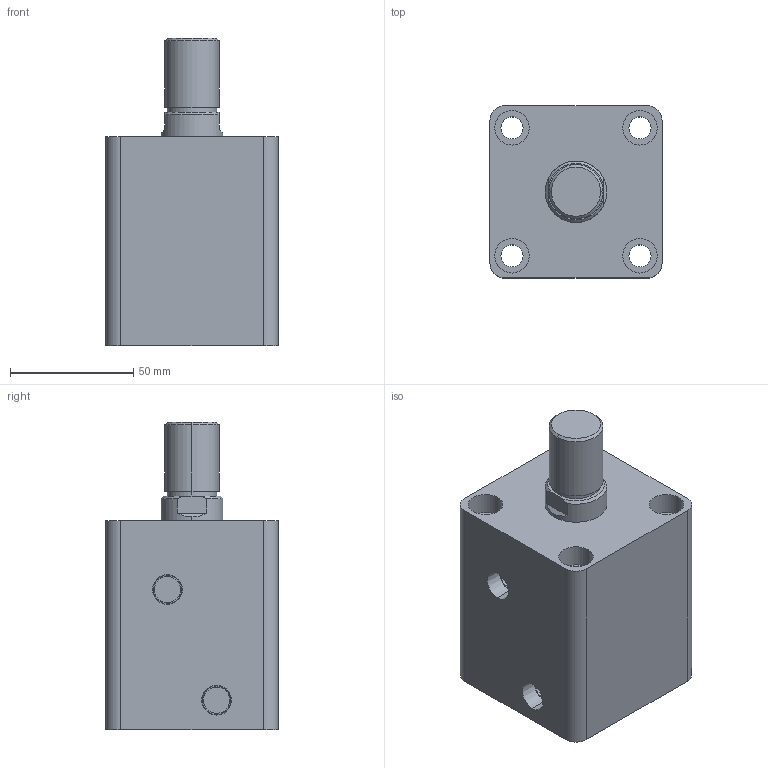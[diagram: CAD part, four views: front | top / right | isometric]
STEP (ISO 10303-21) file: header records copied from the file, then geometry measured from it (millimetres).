
FILE_DESCRIPTION (( 'STEP AP203' ), '1' );
FILE_NAME ('HTB-SD40-30W.STEP', '2019-10-07T06:50:03', ( '微软用户' ), ( '微软中国' ), 'SwSTEP 2.0', 'SolidWorks 2012', '' );
FILE_SCHEMA (( 'CONFIG_CONTROL_DESIGN' ));
Length unit declared in the file: millimetre
Products named in the file (3): HTB-SD40-30掛极; HTB-SD40-30W活塞杆; HTB-SD40-30W
Assembly tree (2 placements, depth 2):
  HTB-SD40-30W
    HTB-SD40-30掛极
    HTB-SD40-30W活塞杆
Bounding box: 70 x 70 x 125 mm (x, y, z)
Volume: 376749.8 mm3; surface area: 65337.9 mm2
Topology: 2 solids, 2 shells, 85 faces, 186 edges, 122 vertices
Faces by surface type: cylinder 44, plane 29, cone 8, torus 4
Entity records: 2709 total; most frequent: DIRECTION 466, CARTESIAN_POINT 426, ORIENTED_EDGE 372, AXIS2_PLACEMENT_3D 198, EDGE_CURVE 186, VERTEX_POINT 122, EDGE_LOOP 110, CIRCLE 108
